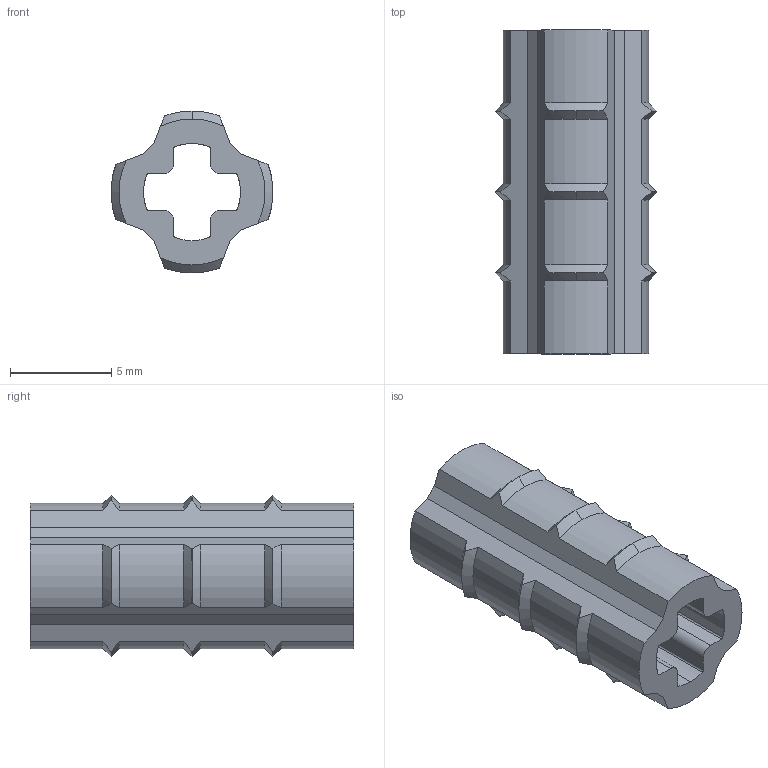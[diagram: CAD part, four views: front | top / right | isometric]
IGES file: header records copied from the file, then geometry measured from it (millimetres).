
Start section: C
Global section: file name: Sand_4207456_AVV.iges; native system: By Siemens PLM Incorporated; preprocessor: XPlus GENERIC/IGES 26.1.183; author: Author; organization: Title; date: 20250722.000353; units: millimetre
Bounding box: 8 x 16 x 8 mm (x, y, z)
Surface area: 702.2 mm2 (no closed solid volume)
Topology: 0 solids, 0 shells, 89 faces, 516 edges, 516 vertices
Faces by surface type: bspline 89
